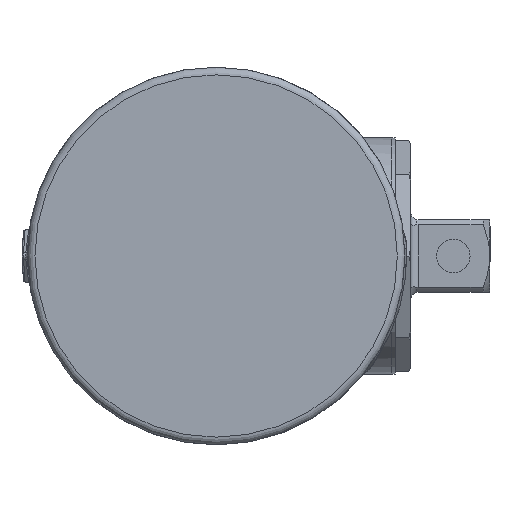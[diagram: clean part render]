
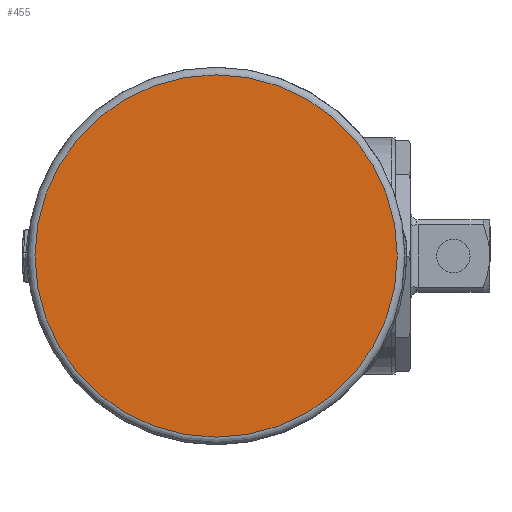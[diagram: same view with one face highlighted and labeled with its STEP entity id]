
A CAD part, left-side view. The second image highlights one B-rep face of the part: STEP entity #455.
In plain terms, the highlighted planar face has unit normal (-1, 0, 0).
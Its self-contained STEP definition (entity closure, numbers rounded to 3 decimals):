
#455 = ADVANCED_FACE ( 'NONE', ( #21766 ), #13259, .T. ) ;
#3922 = AXIS2_PLACEMENT_3D ( 'NONE', #8382, #22879, #27256 ) ;
#7696 = AXIS2_PLACEMENT_3D ( 'NONE', #14950, #20579, #20833 ) ;
#8382 = CARTESIAN_POINT ( 'NONE',  ( -432.6, 0., 0. ) ) ;
#10522 = EDGE_CURVE ( 'NONE', #15258, #15258, #25917, .T. ) ;
#13259 = PLANE ( 'NONE',  #7696 ) ;
#13729 = ORIENTED_EDGE ( 'NONE', *, *, #10522, .T. ) ;
#14950 = CARTESIAN_POINT ( 'NONE',  ( -432.6, 0., 0. ) ) ;
#15258 = VERTEX_POINT ( 'NONE', #27623 ) ;
#20579 = DIRECTION ( 'NONE',  ( -1., 0., 0. ) ) ;
#20833 = DIRECTION ( 'NONE',  ( 0., 0., 1. ) ) ;
#21766 = FACE_OUTER_BOUND ( 'NONE', #30372, .T. ) ;
#22879 = DIRECTION ( 'NONE',  ( -1., 0., 0. ) ) ;
#25917 = CIRCLE ( 'NONE', #3922, 23.75 ) ;
#27256 = DIRECTION ( 'NONE',  ( 0., 0., 1. ) ) ;
#27623 = CARTESIAN_POINT ( 'NONE',  ( -432.6, 0., 23.75 ) ) ;
#30372 = EDGE_LOOP ( 'NONE', ( #13729 ) ) ;
